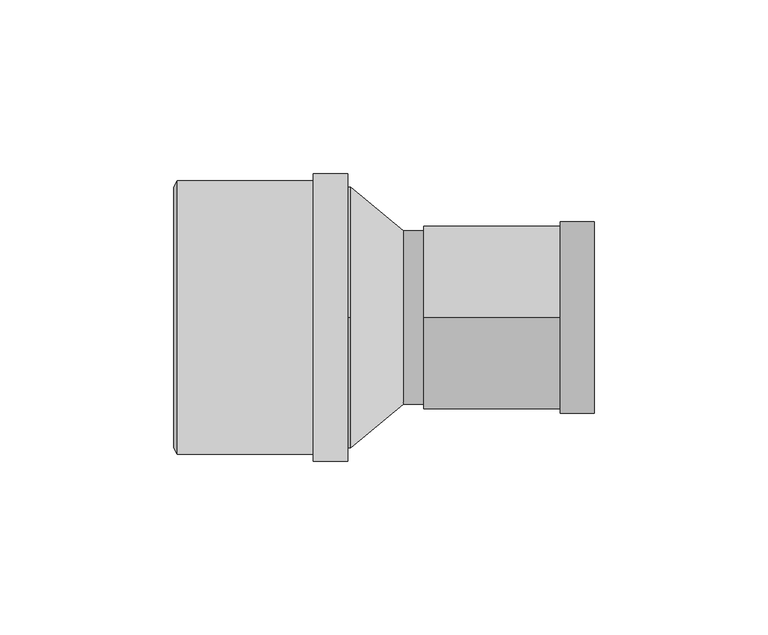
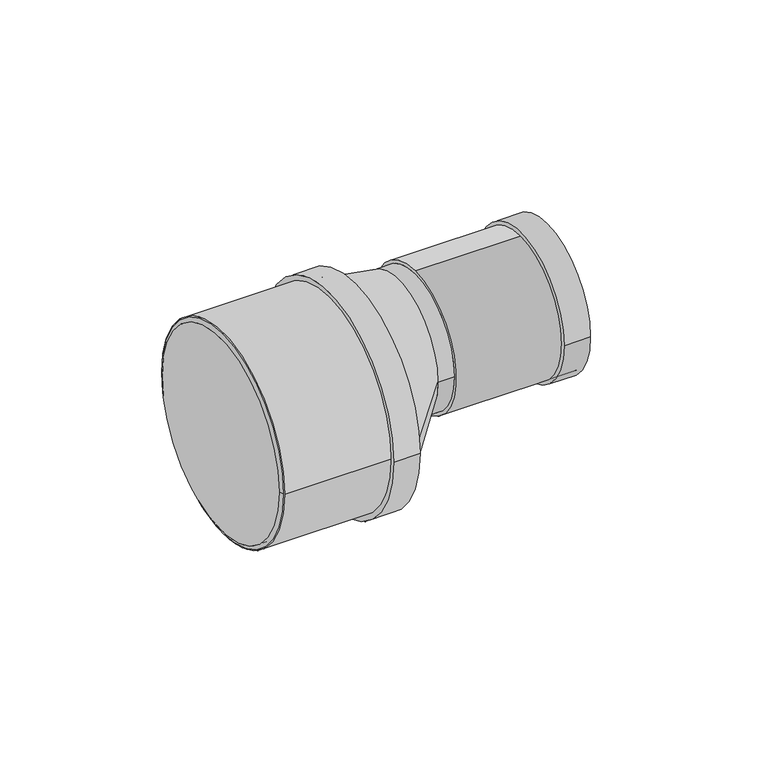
"""IFC4 building model written with IfcOpenShell, lengths in millimetres: pipe fitting geometry, Superdrain HTR-Reducer : Superdrain HTR-Reducer."""

from ifc_helpers import new_model, si_unit, point, frame, frame_2d, origin, origin_2d, place, context, project, spatial, polyline, circle_curve, trimmed, segment, composite_curve, outline, extrude, source, transform, mapped, element, save
from ifc_brep_helpers import plane_surface, revolved_surface, spline_surface, advanced_brep


def pipe_fitting_76f77cfd(model_context):
    return source(origin(), model_context, "Body", "SolidModel", [
        extrude(outline(composite_curve([segment(trimmed(circle_curve(frame_2d((0.0, 0.1450234)), 39.375), [point((39.375, 0.1450234))], [point((-39.375, 0.1450234))], False, "CARTESIAN"), True, "CONTINUOUS"), segment(trimmed(circle_curve(frame_2d((0.0, 0.1450234)), 39.375), [point((-39.375, 0.1450234))], [point((39.375, 0.1450234))], False, "CARTESIAN"), True, "CONTINUOUS")], self_intersect=False), holes=[composite_curve([segment(trimmed(circle_curve(frame_2d((0.0, 0.1450234)), 37.5), [point((37.5, 0.1450234))], [point((-37.5, 0.1450234))], True, "CARTESIAN"), True, "CONTINUOUS"), segment(trimmed(circle_curve(frame_2d((0.0, 0.1450234)), 37.5), [point((-37.5, 0.1450234))], [point((37.5, 0.1450234))], True, "CARTESIAN"), True, "CONTINUOUS")], self_intersect=False)]), frame((-50.0, 0.0, 0.0), z_axis=(1.0, 0.0, 0.0), x_axis=(0.0, 1.0, 0.0)), (0.0, 0.0, 1.0), 49.0),
        extrude(outline(composite_curve([segment(trimmed(circle_curve(frame_2d((0.0, 0.1450234)), 41.34375), [point((41.34375, 0.1450234))], [point((-41.34375, 0.1450234))], False, "CARTESIAN"), True, "CONTINUOUS"), segment(trimmed(circle_curve(frame_2d((0.0, 0.1450234)), 41.34375), [point((-41.34375, 0.1450234))], [point((41.34375, 0.1450234))], False, "CARTESIAN"), True, "CONTINUOUS")], self_intersect=False), holes=[composite_curve([segment(trimmed(circle_curve(frame_2d((0.0, 0.1450234)), 37.5), [point((37.5, 0.1450234))], [point((-37.5, 0.1450234))], True, "CARTESIAN"), True, "CONTINUOUS"), segment(trimmed(circle_curve(frame_2d((0.0, 0.1450234)), 37.5), [point((-37.5, 0.1450234))], [point((37.5, 0.1450234))], True, "CARTESIAN"), True, "CONTINUOUS")], self_intersect=False)]), frame((-10.8, 0.0, 0.0), z_axis=(1.0, 0.0, 0.0), x_axis=(0.0, 1.0, 0.0)), (0.0, 0.0, 1.0), 9.8),
        advanced_brep(
        [(-51.0, 37.5, 0.1450234), (-51.0, -37.5, 0.1450234), (-50.0, 39.375, 0.1450234), (-50.0, -39.375, 0.1450234)],
        [
            (0, 1, circle_curve(frame((-51.0, 0.0, 0.1450234), z_axis=(-1.0, 0.0, 0.0), x_axis=(0.0, 1.0000000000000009, 0.0)), 37.5)),
            (1, 0, circle_curve(frame((-51.0, 0.0, 0.1450234), z_axis=(-1.0, 0.0, 0.0), x_axis=(0.0, -1.0000000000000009, 0.0)), 37.5)),
            (2, 3, circle_curve(frame((-50.0, 0.0, 0.1450234), z_axis=(1.0, 0.0, 0.0), x_axis=(0.0, -1.0000000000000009, 0.0)), 39.375)),
            (3, 2, circle_curve(frame((-50.0, 0.0, 0.1450234), z_axis=(1.0, 0.0, 0.0), x_axis=(0.0, 1.0000000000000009, 0.0)), 39.375)),
            (3, 1),
            (0, 2),
        ],
        [
            plane_surface(frame((-51.0, 0.0, 0.1450234), z_axis=(-1.0, 0.0, 0.0), x_axis=(0.0, 0.0, -1.0))),
            plane_surface(frame((-50.0, 0.0, 0.1450234), z_axis=(1.0, 0.0, 0.0), x_axis=(0.0, 0.0, -1.0))),
            revolved_surface(polyline([(-51.0, 37.49999999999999, 0.1450234), (-50.0, 39.375, 0.1450234)]), (-71.0, 0.0, 0.1450234), (1.0000000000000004, 0.0, 0.0)),
            revolved_surface(polyline([(-51.0, -37.49999999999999, 0.1450234), (-50.0, -39.375, 0.1450234)]), (-71.0, 0.0, 0.1450234), (1.0000000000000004, 0.0, 0.0)),
        ],
        [
            (0, [[1, 2]]),
            (1, [[3, 4]]),
            (2, [[-4, 5, -1, 6]]),
            (3, [[-3, -6, -2, -5]]),
        ],
    ),
        advanced_brep(
        [(15.0, -25.0, 12.5), (15.0, 25.0, 12.5), (0.0, -37.5, 0.0), (0.0, 37.5, 0.0)],
        [
            (0, 1, circle_curve(frame((15.0, 0.0, 12.5), z_axis=(1.0, 0.0, 0.0), x_axis=(0.0, 1.0, 0.0)), 25.0)),
            (1, 0, circle_curve(frame((15.0, 0.0, 12.5), z_axis=(1.0, 0.0, 0.0), x_axis=(0.0, 1.0, 0.0)), 25.0)),
            (2, 3, circle_curve(frame((0.0, 0.0, 0.0), z_axis=(-1.0, 0.0, 0.0), x_axis=(0.0, 1.0, 0.0)), 37.5)),
            (3, 2, circle_curve(frame((0.0, 0.0, 0.0), z_axis=(-1.0, 0.0, 0.0), x_axis=(0.0, 1.0, 0.0)), 37.5)),
            (3, 1),
            (0, 2),
        ],
        [
            plane_surface(frame((15.0, 0.0, 12.5), z_axis=(1.0, 0.0, 0.0), x_axis=(0.0, 0.0, -1.0))),
            plane_surface(frame((0.0, 0.0, 0.0), z_axis=(-1.0, 0.0, 0.0), x_axis=(0.0, 0.0, -1.0))),
            spline_surface(2, 1, [[(0.0, -37.5, 0.0), (15.0, -25.0, 12.5)], [(0.0, -37.5, -37.5), (15.0, -25.0, -12.5)], [(0.0, 0.0, -37.5), (15.0, 0.0, -12.5)], [(0.0, 37.5, -37.5), (15.0, 25.0, -12.5)], [(0.0, 37.5, 0.0), (15.0, 25.0, 12.5)]], [3, 2, 3], [2, 2], [0.0, 1.0, 2.0], [0.0, 1.0], weights=[[1.0, 1.0], [0.7071067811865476, 0.7071067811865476], [1.0, 1.0], [0.7071067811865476, 0.7071067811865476], [1.0, 1.0]]),
            spline_surface(2, 1, [[(0.0, 37.5, 0.0), (15.0, 25.0, 12.5)], [(0.0, 37.5, 37.5), (15.0, 25.0, 37.5)], [(0.0, 0.0, 37.5), (15.0, 0.0, 37.5)], [(0.0, -37.5, 37.5), (15.0, -25.0, 37.5)], [(0.0, -37.5, 0.0), (15.0, -25.0, 12.5)]], [3, 2, 3], [2, 2], [0.0, 1.0, 2.0], [0.0, 1.0], weights=[[1.0, 1.0], [0.7071067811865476, 0.7071067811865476], [1.0, 1.0], [0.7071067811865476, 0.7071067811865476], [1.0, 1.0]]),
        ],
        [
            (0, [[1, 2]]),
            (1, [[3, 4]]),
            (2, [[-4, 5, -1, 6]]),
            (3, [[-3, -6, -2, -5]]),
        ],
    ),
        extrude(outline(composite_curve([segment(trimmed(circle_curve(frame_2d((0.0, 12.5)), 25.0), [point((-25.0, 12.5))], [point((25.0, 12.5))], False, "CARTESIAN"), True, "CONTINUOUS"), segment(trimmed(circle_curve(frame_2d((0.0, 12.5)), 25.0), [point((25.0, 12.5))], [point((-25.0, 12.5))], False, "CARTESIAN"), True, "CONTINUOUS")], self_intersect=False)), frame((15.0, 0.0, 0.0), z_axis=(1.0, 0.0, 0.0), x_axis=(0.0, 1.0, 0.0)), (0.0, 0.0, 1.0), 6.0),
        extrude(outline(composite_curve([segment(trimmed(circle_curve(frame_2d((0.0, 12.5)), 27.5625), [point((-27.5625, 12.5))], [point((27.5625, 12.5))], False, "CARTESIAN"), True, "CONTINUOUS"), segment(trimmed(circle_curve(frame_2d((0.0, 12.5)), 27.5625), [point((27.5625, 12.5))], [point((-27.5625, 12.5))], False, "CARTESIAN"), True, "CONTINUOUS")], self_intersect=False), holes=[composite_curve([segment(trimmed(circle_curve(frame_2d((0.0, 12.5)), 25.0), [point((25.0, 12.5))], [point((-25.0, 12.5))], True, "CARTESIAN"), True, "CONTINUOUS"), segment(trimmed(circle_curve(frame_2d((0.0, 12.5)), 25.0), [point((-25.0, 12.5))], [point((25.0, 12.5))], True, "CARTESIAN"), True, "CONTINUOUS")], self_intersect=False)]), frame((60.2, 0.0, 0.0), z_axis=(1.0, 0.0, 0.0), x_axis=(0.0, 1.0, 0.0)), (0.0, 0.0, 1.0), 9.8),
        extrude(outline(composite_curve([segment(trimmed(circle_curve(frame_2d((0.0, 12.5)), 26.25), [point((0.0, 38.75))], [point((0.0, -13.75))], False, "CARTESIAN"), True, "CONTINUOUS"), segment(trimmed(circle_curve(frame_2d((0.0, 12.5)), 26.25), [point((0.0, -13.75))], [point((0.0, 38.75))], False, "CARTESIAN"), True, "CONTINUOUS")], self_intersect=False), holes=[composite_curve([segment(trimmed(circle_curve(frame_2d((0.0, 12.5)), 25.0), [point((25.0, 12.5))], [point((-25.0, 12.5))], True, "CARTESIAN"), True, "CONTINUOUS"), segment(trimmed(circle_curve(frame_2d((0.0, 12.5)), 25.0), [point((-25.0, 12.5))], [point((25.0, 12.5))], True, "CARTESIAN"), True, "CONTINUOUS")], self_intersect=False)]), frame((21.0, 0.0, 0.0), z_axis=(1.0, 0.0, 0.0), x_axis=(0.0, 1.0, 0.0)), (0.0, 0.0, 1.0), 49.0),
        extrude(outline(composite_curve([segment(trimmed(circle_curve(origin_2d(), 37.5), [point((0.0, 37.5))], [point((0.0, -37.5))], False, "CARTESIAN"), True, "CONTINUOUS"), segment(trimmed(circle_curve(origin_2d(), 37.5), [point((0.0, -37.5))], [point((0.0, 37.5))], False, "CARTESIAN"), True, "CONTINUOUS")], self_intersect=False)), frame((-50.0, 0.0, 0.0), z_axis=(1.0, 0.0, 0.0), x_axis=(0.0, 1.0, 0.0)), (0.0, 0.0, 1.0), 50.0),
    ])


if __name__ == "__main__":
    model = new_model("IFC4")
    model_context = context("Model", 3, world=origin())
    ifc_project = project(units=[si_unit("LENGTHUNIT", "METRE", prefix="MILLI")], contexts=[model_context])
    site = spatial("IfcSite", under=ifc_project)
    building = spatial("IfcBuilding", under=site)
    placement = place(None, origin())
    pipe_fitting_shape = pipe_fitting_76f77cfd(model_context)
    element("IfcPipeFitting", 1, ObjectType="Superdrain HTR-Reducer : Superdrain HTR-Reducer", at=placement, inside=building, context=model_context, shape_type="MappedRepresentation", body=[
        mapped(pipe_fitting_shape, transform((0.0, 0.0, 0.0), x_axis=(1.0, 0.0, 0.0), y_axis=(0.0, 1.0, 0.0), z_axis=(0.0, 0.0, 1.0))),
    ])
    save(model, "model.ifc")
